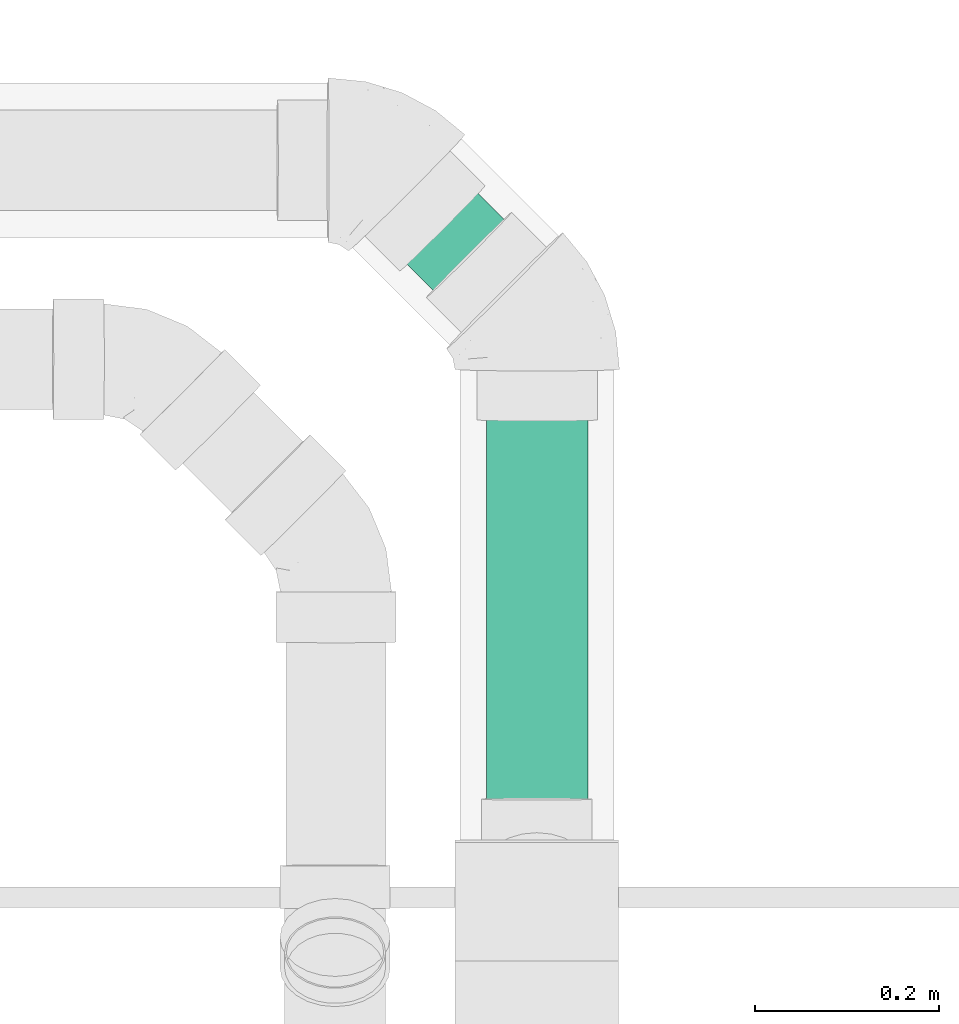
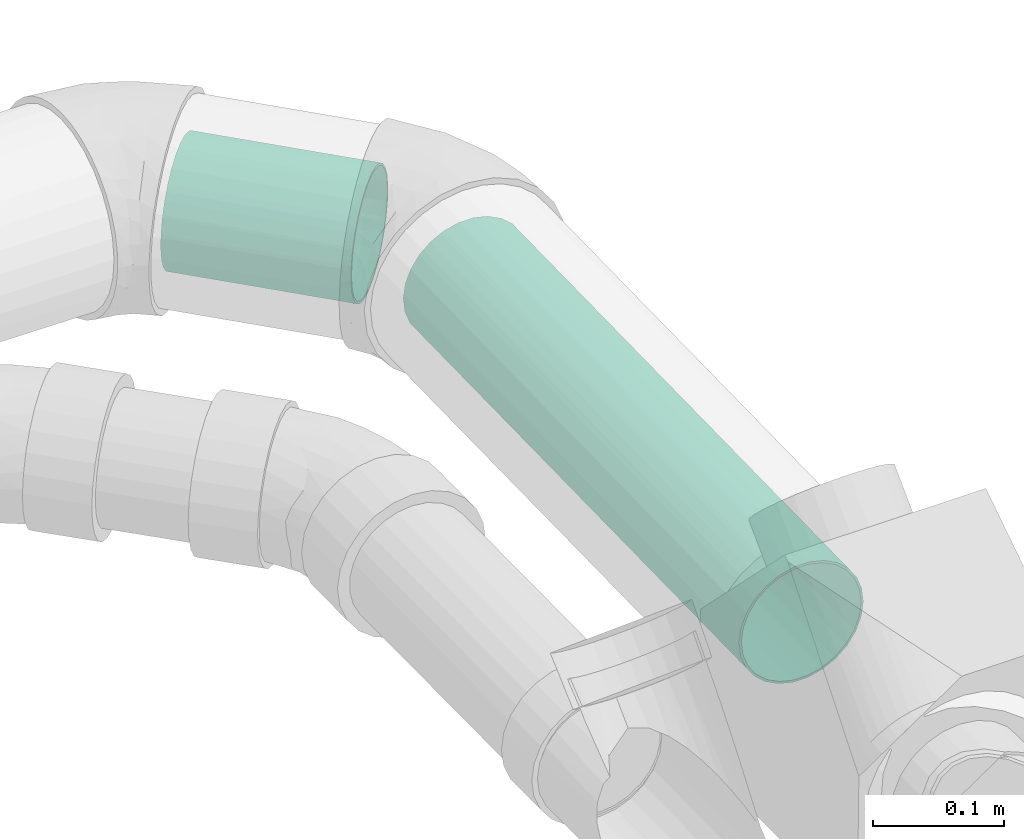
# One storey, part 38 of 78: 2 flow segments.
"""IFC2X3 building model written with IfcOpenShell, lengths in millimetres."""

from ifc_helpers import new_model, entity, si_unit, converted_unit, derived_unit, direction, frame, origin_with_axes, origin_2d_with_axis, place, context, subcontext, project, spatial, hollow_circle, extrude, source, transform, mapped, type_object, element, save


model = new_model("IFC2X3")

# Units and contexts
model_context = context("Model", 3, precision=0.01, world=frame((0.0, 4.29681676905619e-09, 0.0)), true_north=direction((4.01073788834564e-13, 1.0)))
plan_context = context("Plan", 3, precision=0.01, world=frame((0.0, 4.29681676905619e-09, 0.0)), true_north=direction((4.01073788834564e-13, 1.0)))
body_context = subcontext(model_context, "Body", "Model", "MODEL_VIEW")
ifc_project = project(units=[converted_unit("PLANEANGLEUNIT", "DEGREE", entity("IfcPositiveLengthMeasure", 0.0174532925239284), si_unit("PLANEANGLEUNIT", "RADIAN"), dimensions=[0, 0, 0, 0, 0, 0, 0]), si_unit("AREAUNIT", "SQUARE_METRE"), si_unit("LENGTHUNIT", "METRE", prefix="MILLI"), si_unit("MASSUNIT", "GRAM", prefix="KILO"), si_unit("POWERUNIT", "WATT"), si_unit("PRESSUREUNIT", "PASCAL"), si_unit("FORCEUNIT", "NEWTON", prefix="KILO"), si_unit("ELECTRICVOLTAGEUNIT", "VOLT"), si_unit("ELECTRICCURRENTUNIT", "AMPERE"), si_unit("THERMODYNAMICTEMPERATUREUNIT", "DEGREE_CELSIUS"), si_unit("TIMEUNIT", "SECOND"), si_unit("VOLUMEUNIT", "CUBIC_METRE"), derived_unit("LINEARVELOCITYUNIT", [(si_unit("LENGTHUNIT", "METRE"), 1), (si_unit("TIMEUNIT", "SECOND"), -1)]), derived_unit("VOLUMETRICFLOWRATEUNIT", [(si_unit("VOLUMEUNIT", "CUBIC_METRE"), 1), (si_unit("TIMEUNIT", "SECOND"), -1)]), derived_unit("THERMALTRANSMITTANCEUNIT", [(si_unit("POWERUNIT", "WATT"), 1), (si_unit("THERMODYNAMICTEMPERATUREUNIT", "KELVIN"), -1), (si_unit("AREAUNIT", "SQUARE_METRE"), -1)]), derived_unit("SOUNDPRESSUREUNIT", [(si_unit("PRESSUREUNIT", "PASCAL"), 1)])], contexts=[model_context, plan_context])

# Site, building, storey
site_placement = place(None, frame((0.0, -4.29681676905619e-09, 0.0), z_axis=(0.0, 0.0, 1.0), x_axis=(1.0, 0.0, 0.0)))
site = spatial("IfcSite", under=ifc_project, at=site_placement, Name="ENGM", CompositionType="ELEMENT")
building_placement = place(site_placement, frame((0.0, 4.29681676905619e-09, 0.0), z_axis=(0.0, 0.0, 1.0), x_axis=(1.0, 0.0, 0.0)))
building = spatial("IfcBuilding", under=site, at=building_placement, Name="TH", CompositionType="ELEMENT")
storey_placement = place(building_placement, frame((0.0, 0.0, 205200.0), z_axis=(0.0, 0.0, 1.0), x_axis=(1.0, 0.0, 0.0)))
storey = spatial("IfcBuildingStorey", under=building, at=storey_placement, Name="Nivå D + 1,2 m", CompositionType="ELEMENT", Elevation=205200.0)

# Flow segments
pipe_segment_type = type_object("IfcPipeSegmentType", Name="SUPER MA", PredefinedType="RIGIDSEGMENT")
shared_shape_1 = source(origin_with_axes(), body_context, "Body", "SweptSolid", [
    extrude(hollow_circle(Radius=55.0, WallThickness=2.0, at=origin_2d_with_axis()), frame((0.0, 0.0, 0.0), z_axis=(1.0, 0.0, 0.0), x_axis=(0.0, 1.0, 0.0)), (0.0, 0.0, 1.0), 150.9),
])
flow_segment_1_placement = place(storey_placement, frame((903178.90491, 482783.19627, 4374.34289), z_axis=(-0.707197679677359, -0.706966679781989, -0.00833999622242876), x_axis=(0.70696833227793, -0.706964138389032, -0.0199370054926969)))
element("IfcFlowSegment", 1, at=flow_segment_1_placement, inside=storey, type_object=pipe_segment_type, Name="SUPER MA", context=body_context, shape_type="MappedRepresentation", body=[
    mapped(shared_shape_1, transform((0.0, 0.0, 0.0), scale=1.0)),
])
shared_shape_2 = source(origin_with_axes(), body_context, "Body", "SweptSolid", [
    extrude(hollow_circle(Radius=55.0, WallThickness=2.0, at=origin_2d_with_axis()), frame((0.0, 0.0, 0.0), z_axis=(1.0, 0.0, 0.0), x_axis=(0.0, 1.0, 0.0)), (0.0, 0.0, 1.0), 514.4),
])
flow_segment_2_placement = place(storey_placement, frame((903320.98069, 482076.74717, 4359.33983000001), z_axis=(0.0, -0.0194310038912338, 0.999811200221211), x_axis=(0.0, 0.999811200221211, 0.0194310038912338)))
element("IfcFlowSegment", 2, at=flow_segment_2_placement, inside=storey, type_object=pipe_segment_type, Name="SUPER MA", context=body_context, shape_type="MappedRepresentation", body=[
    mapped(shared_shape_2, transform((0.0, 0.0, 0.0), scale=1.0)),
])

save(model, "model.ifc")
